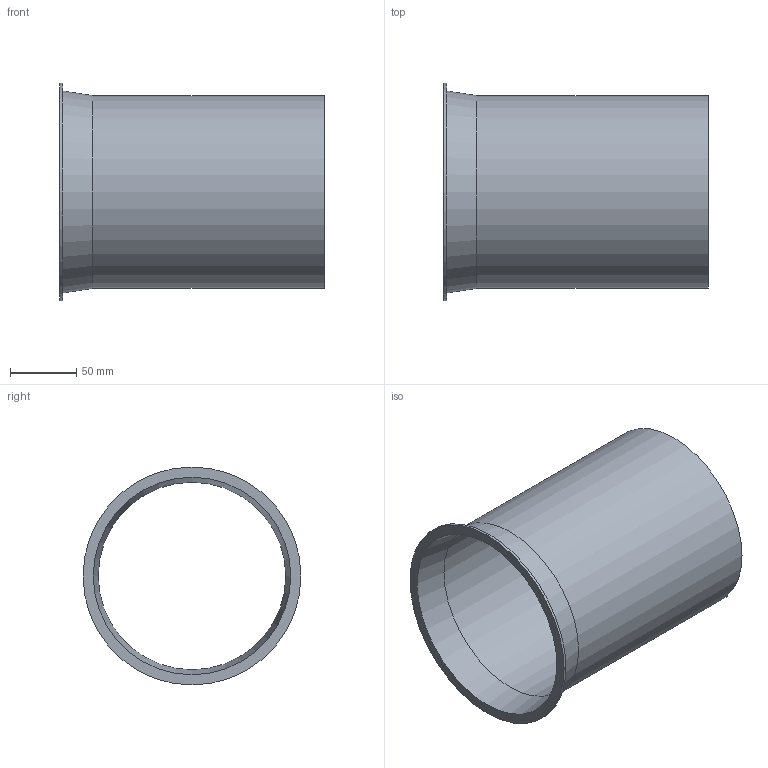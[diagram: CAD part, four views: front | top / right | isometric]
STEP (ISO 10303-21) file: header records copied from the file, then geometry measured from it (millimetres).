
FILE_DESCRIPTION((''),'2;1');
FILE_NAME('U:\Wolfgang\Marcel-3D\fertig\Kapitel 1\1511008.stp','2010-05-31T11:08:42',('TK2'),(''),'Autodesk Inventor 2010','Autodesk Inventor 2010','');
FILE_SCHEMA(('AUTOMOTIVE_DESIGN { 1 0 10303 214 1 1 1 1 }'));
Length unit declared in the file: millimetre
Products named in the file (1): 1511008
Bounding box: 200 x 165 x 165 mm (x, y, z)
Volume: 187663.8 mm3; surface area: 189594.3 mm2
Topology: 1 solids, 1 shells, 8 faces, 14 edges, 9 vertices
Faces by surface type: cylinder 3, plane 3, cone 2
Full cylindrical faces by diameter (mm): 142 x1, 146 x1, 165 x1
Entity records: 194 total; most frequent: DIRECTION 34, CARTESIAN_POINT 25, AXIS2_PLACEMENT_3D 17, ORIENTED_EDGE 16, EDGE_LOOP 16, VERTEX_POINT 8, CIRCLE 8, EDGE_CURVE 8
